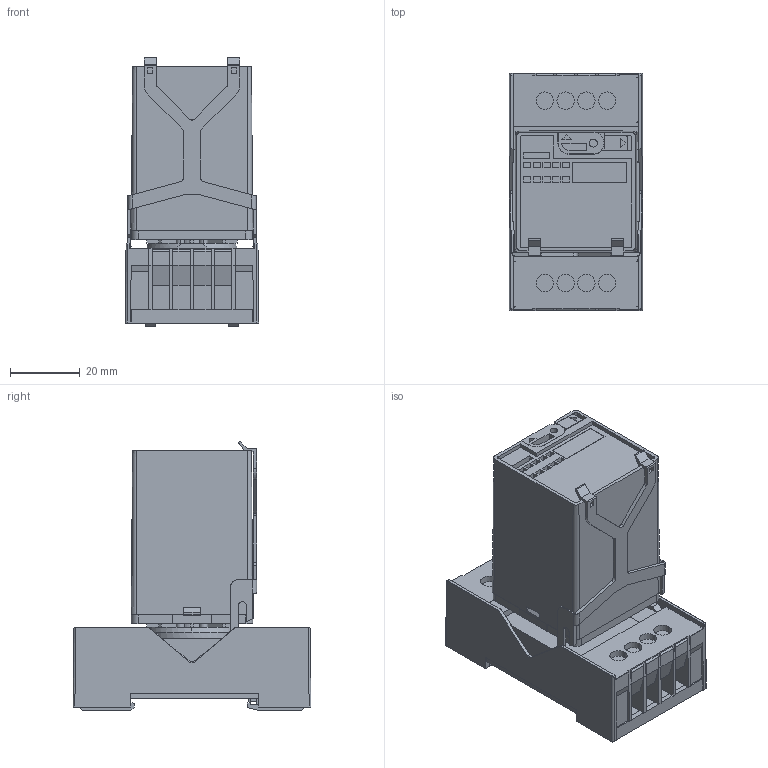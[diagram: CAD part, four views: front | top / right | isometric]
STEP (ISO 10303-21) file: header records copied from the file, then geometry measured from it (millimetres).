
FILE_DESCRIPTION (( 'STEP AP214' ), '1' );
FILE_NAME ('C21_C22_plus_S2-B.STEP', '2024-04-04T09:10:40', ( '' ), ( '' ), 'SwSTEP 2.0', 'SolidWorks 2022', '' );
FILE_SCHEMA (( 'AUTOMOTIVE_DESIGN' ));
Length unit declared in the file: millimetre
Products named in the file (1): C21_C22_plus_S2-B
Bounding box: 38.34 x 68.38 x 77.37 mm (x, y, z)
Volume: 104728.1 mm3; surface area: 28361 mm2
Topology: 1 solids, 8 shells, 1061 faces, 2907 edges, 1847 vertices
Faces by surface type: plane 846, cylinder 181, bspline 18, cone 16
Entity records: 44879 total; most frequent: CARTESIAN_POINT 6572, ORIENTED_EDGE 5806, DIRECTION 5224, EDGE_CURVE 2903, LINE 2390, VECTOR 2390, VERTEX_POINT 1847, AXIS2_PLACEMENT_3D 1417
